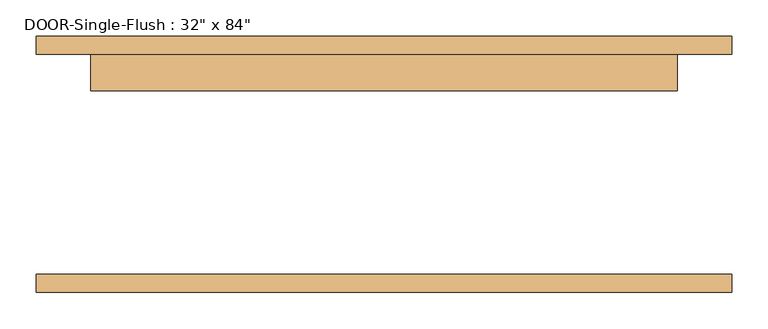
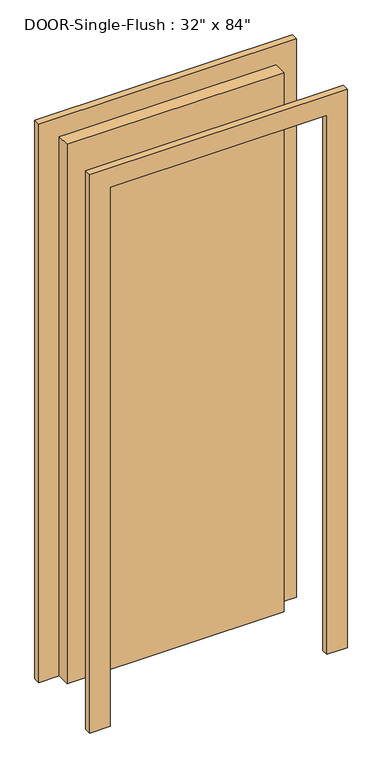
"""IFC4 building model written with IfcOpenShell, lengths in millimetres: door geometry."""

from ifc_helpers import new_model, si_unit, frame, origin, origin_with_axes, place, context, project, spatial, polyline, outline, extrude, source, transform, mapped, element, save


def door_a55f82fb(model_context):
    return source(origin(), model_context, "Body", "SweptSolid", [
        extrude(outline(polyline([(2209.8, -482.6), (0.0, -482.6), (0.0, -406.4), (2133.6, -406.4), (2133.6, 406.4), (0.0, 406.4), (0.0, 482.6), (2209.8, 482.6), (2209.8, -482.6)])), frame((0.0, 152.4, 0.0), z_axis=(0.0, 1.0, 0.0), x_axis=(0.0, 0.0, 1.0)), (0.0, 0.0, 1.0), 25.4),
        extrude(outline(polyline([(2209.8, 482.6), (2209.8, -482.6), (0.0, -482.6), (0.0, -406.4), (2133.6, -406.4), (2133.6, 406.4), (0.0, 406.4), (0.0, 482.6), (2209.8, 482.6)])), frame((0.0, -177.8, 0.0), z_axis=(0.0, 1.0, 0.0), x_axis=(0.0, 0.0, 1.0)), (0.0, 0.0, 1.0), 25.4),
        extrude(outline(polyline([(406.4, 101.6), (-406.4, 101.6), (-406.4, 152.4), (406.4, 152.4), (406.4, 101.6)])), origin_with_axes(), (0.0, 0.0, 1.0), 2133.6),
    ])


if __name__ == "__main__":
    model = new_model("IFC4")
    model_context = context("Model", 3, world=origin())
    ifc_project = project(units=[si_unit("LENGTHUNIT", "METRE", prefix="MILLI")], contexts=[model_context])
    site = spatial("IfcSite", under=ifc_project)
    building = spatial("IfcBuilding", under=site)
    placement = place(None, origin())
    door_shape = door_a55f82fb(model_context)
    element("IfcDoor", 1, ObjectType="DOOR-Single-Flush : 32\" x 84\"", at=placement, inside=building, context=model_context, shape_type="MappedRepresentation", body=[
        mapped(door_shape, transform((0.0, 0.0, 0.0), x_axis=(1.0, 0.0, 0.0), y_axis=(0.0, 1.0, 0.0), z_axis=(0.0, 0.0, 1.0))),
    ])
    save(model, "model.ifc")
